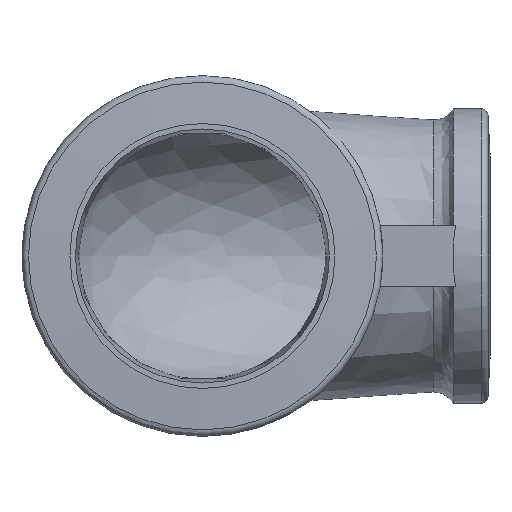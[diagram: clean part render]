
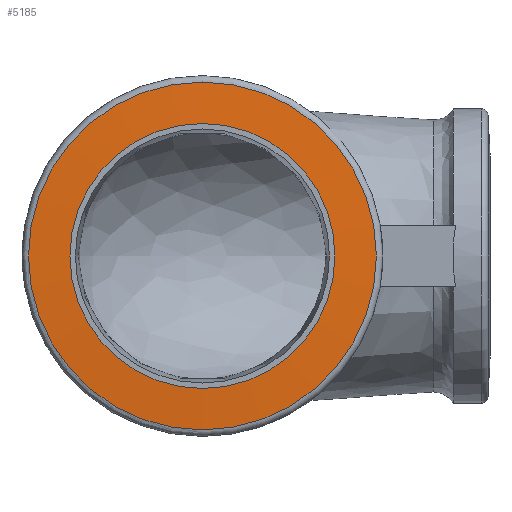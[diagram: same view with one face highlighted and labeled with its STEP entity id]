
A CAD part, front view. The second image highlights one B-rep face of the part: STEP entity #5185.
In plain terms, the highlighted conical face has half-angle 87 degrees and reference radius 22.85 mm.
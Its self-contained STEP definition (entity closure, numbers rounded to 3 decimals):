
#3237=CARTESIAN_POINT('',(25.402,0.317,0.));
#3238=VERTEX_POINT('',#3237);
#3239=CARTESIAN_POINT('',(0.0,0.317,0.));
#3240=DIRECTION('',(0.0,1.0,0.0));
#3241=DIRECTION('',(-1.0,0.0,0.0));
#3242=AXIS2_PLACEMENT_3D('',#3239,#3240,#3241);
#3243=CIRCLE('',#3242,25.402);
#3244=EDGE_CURVE('',#3238,#3238,#3243,.T.);
#5166=CARTESIAN_POINT('',(0.,0.183,0.));
#5167=DIRECTION('',(0.,1.0,0.));
#5168=DIRECTION('',(-1.0,0.0,0.0));
#5169=AXIS2_PLACEMENT_3D('',#5166,#5167,#5168);
#5170=CONICAL_SURFACE('',#5169,22.85,87.);
#5171=ORIENTED_EDGE('',*,*,#3244,.F.);
#5172=EDGE_LOOP('',(#5171));
#5173=FACE_OUTER_BOUND('',#5172,.T.);
#5174=CARTESIAN_POINT('',(19.35,0.,0.));
#5175=VERTEX_POINT('',#5174);
#5176=CARTESIAN_POINT('',(0.,0.0,0.));
#5177=DIRECTION('',(0.0,1.0,0.0));
#5178=DIRECTION('',(-1.0,0.0,0.0));
#5179=AXIS2_PLACEMENT_3D('',#5176,#5177,#5178);
#5180=CIRCLE('',#5179,19.35);
#5181=EDGE_CURVE('',#5175,#5175,#5180,.T.);
#5182=ORIENTED_EDGE('',*,*,#5181,.T.);
#5183=EDGE_LOOP('',(#5182));
#5184=FACE_BOUND('',#5183,.T.);
#5185=ADVANCED_FACE('',(#5173,#5184),#5170,.T.);
